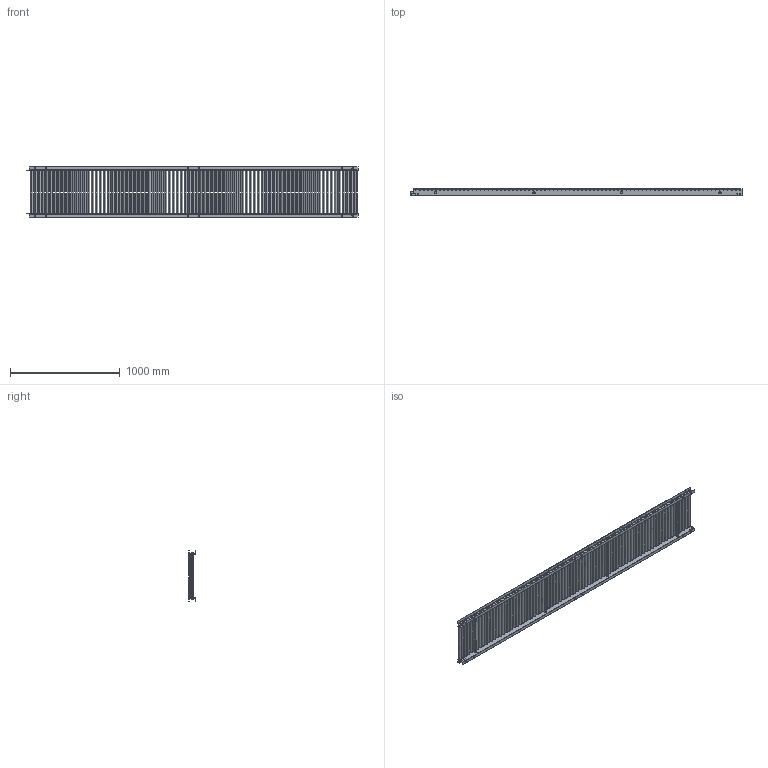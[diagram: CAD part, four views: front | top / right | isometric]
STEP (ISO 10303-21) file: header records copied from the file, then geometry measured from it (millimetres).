
FILE_DESCRIPTION (( 'STEP AP203' ), '1' );
FILE_NAME ('SS-2510.step', '2024-02-26T06:43:10', ( '' ), ( '' ), 'SwSTEP 2.0', 'SolidWorks 2023', '' );
FILE_SCHEMA (( 'CONFIG_CONTROL_DESIGN' ));
Length unit declared in the file: millimetre
Products named in the file (1): SS-2510
Bounding box: 3031.5 x 63.7 x 460 mm (x, y, z)
Volume: 17023080 mm3; surface area: 6484233.5 mm2
Topology: 186 solids, 186 shells, 4076 faces, 10198 edges, 6664 vertices
Faces by surface type: plane 2278, cylinder 1426, torus 324, cone 48
Entity records: 124793 total; most frequent: DIRECTION 23068, CARTESIAN_POINT 21611, ORIENTED_EDGE 20396, EDGE_CURVE 10198, AXIS2_PLACEMENT_3D 8921, VERTEX_POINT 6664, VECTOR 5226, LINE 5226
